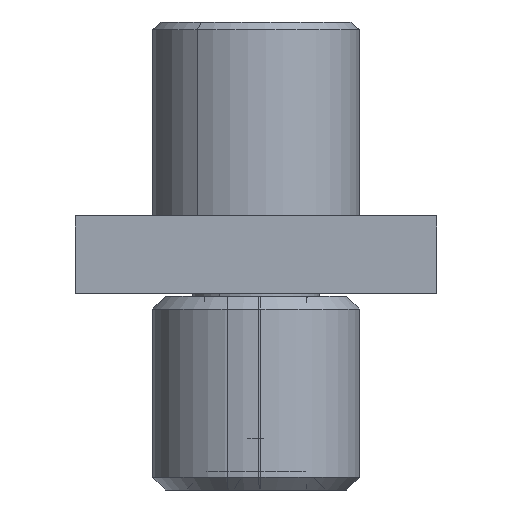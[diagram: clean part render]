
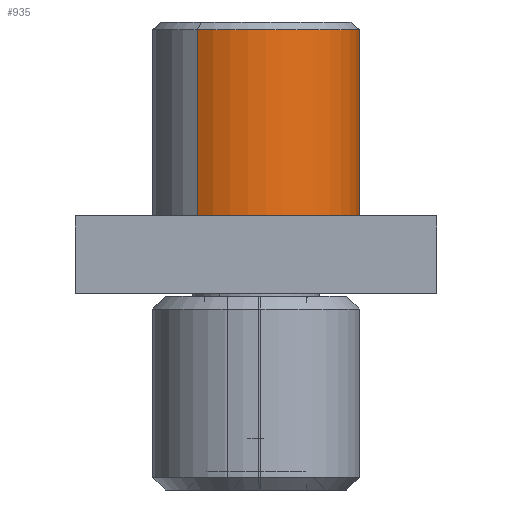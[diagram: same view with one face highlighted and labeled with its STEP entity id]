
A CAD part, left-side view. The second image highlights one B-rep face of the part: STEP entity #935.
In plain terms, the highlighted cylindrical face has radius 4 mm (diameter 8 mm), a partial arc.
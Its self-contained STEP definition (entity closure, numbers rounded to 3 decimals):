
#32 = VECTOR ( 'NONE', #39, 1000. ) ;
#39 = DIRECTION ( 'NONE',  ( 0., 0., -1. ) ) ;
#40 = CARTESIAN_POINT ( 'NONE',  ( 0., 0., -18.1 ) ) ;
#57 = AXIS2_PLACEMENT_3D ( 'NONE', #40, #150, #758 ) ;
#67 = CIRCLE ( 'NONE', #260, 4. ) ;
#68 = DIRECTION ( 'NONE',  ( 0., 0., -1. ) ) ;
#78 = CARTESIAN_POINT ( 'NONE',  ( 0., 0., -7.5 ) ) ;
#113 = VERTEX_POINT ( 'NONE', #1468 ) ;
#141 = CARTESIAN_POINT ( 'NONE',  ( 0., -4., -18.1 ) ) ;
#150 = DIRECTION ( 'NONE',  ( 0., 0., -1. ) ) ;
#170 = CARTESIAN_POINT ( 'NONE',  ( 0., 0., -0.3 ) ) ;
#175 = CYLINDRICAL_SURFACE ( 'NONE', #57, 4. ) ;
#190 = DIRECTION ( 'NONE',  ( 0., 1., 0. ) ) ;
#260 = AXIS2_PLACEMENT_3D ( 'NONE', #170, #1018, #295 ) ;
#274 = VERTEX_POINT ( 'NONE', #606 ) ;
#295 = DIRECTION ( 'NONE',  ( 0., 1., 0. ) ) ;
#358 = LINE ( 'NONE', #141, #32 ) ;
#375 = EDGE_CURVE ( 'NONE', #274, #1212, #358, .T. ) ;
#415 = ORIENTED_EDGE ( 'NONE', *, *, #990, .T. ) ;
#478 = VERTEX_POINT ( 'NONE', #631 ) ;
#606 = CARTESIAN_POINT ( 'NONE',  ( 0., -4., -0.3 ) ) ;
#631 = CARTESIAN_POINT ( 'NONE',  ( 0., 4., -7.5 ) ) ;
#758 = DIRECTION ( 'NONE',  ( 0., 1., 0. ) ) ;
#799 = ORIENTED_EDGE ( 'NONE', *, *, #1078, .F. ) ;
#826 = LINE ( 'NONE', #913, #1419 ) ;
#844 = CIRCLE ( 'NONE', #914, 4. ) ;
#913 = CARTESIAN_POINT ( 'NONE',  ( 0., 4., -18.1 ) ) ;
#914 = AXIS2_PLACEMENT_3D ( 'NONE', #78, #923, #190 ) ;
#923 = DIRECTION ( 'NONE',  ( 0., 0., -1. ) ) ;
#935 = ADVANCED_FACE ( 'NONE', ( #1453 ), #175, .T. ) ;
#969 = EDGE_LOOP ( 'NONE', ( #991, #415, #1437, #799 ) ) ;
#990 = EDGE_CURVE ( 'NONE', #274, #113, #67, .T. ) ;
#991 = ORIENTED_EDGE ( 'NONE', *, *, #375, .F. ) ;
#1018 = DIRECTION ( 'NONE',  ( 0., 0., -1. ) ) ;
#1064 = CARTESIAN_POINT ( 'NONE',  ( 0., -4., -7.5 ) ) ;
#1078 = EDGE_CURVE ( 'NONE', #1212, #478, #844, .T. ) ;
#1212 = VERTEX_POINT ( 'NONE', #1064 ) ;
#1354 = EDGE_CURVE ( 'NONE', #113, #478, #826, .T. ) ;
#1419 = VECTOR ( 'NONE', #68, 1000. ) ;
#1437 = ORIENTED_EDGE ( 'NONE', *, *, #1354, .T. ) ;
#1453 = FACE_OUTER_BOUND ( 'NONE', #969, .T. ) ;
#1468 = CARTESIAN_POINT ( 'NONE',  ( 0., 4., -0.3 ) ) ;
